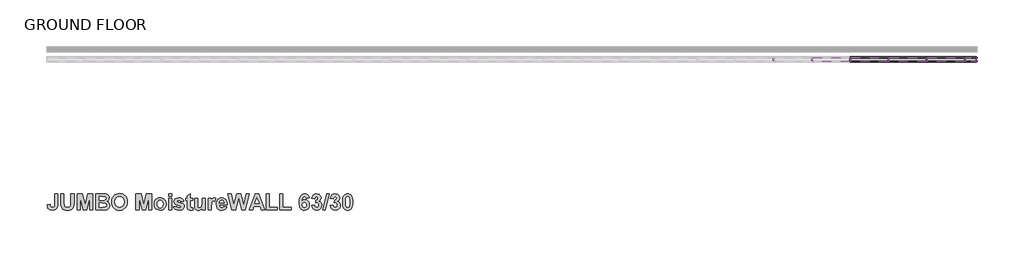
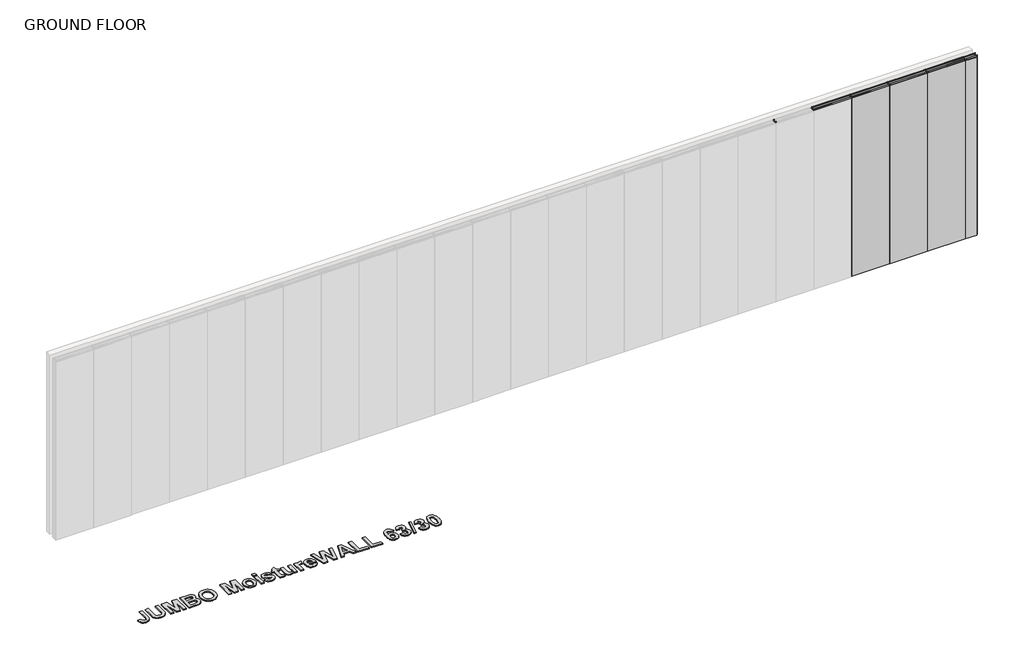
# One storey, part 2 of 2: 16 members, 4 plates, 1 proxy.
"""IFC4 building model written with IfcOpenShell, lengths in millimetres."""

from ifc_helpers import new_model, si_unit, origin, origin_with_axes, place, context, project, spatial, polyline, outline, extrude, transform, mapped, element, save
from components import rectangular_mullion_stud_mullion_63mm_b2ef130e, rectangular_mullion_stud_mullion_63mm_af775e70, rectangular_mullion_stud_mullion_63mm_c22ba0a2, rectangular_mullion_stud_mullion_63mm_ab3eab4e, rectangular_mullion_stud_mullion_63mm_06861ceb, rectangular_mullion_stud_mullion_63mm_08592bac, plate_2_layer_drywall_panels_2_layer_12mm_drywall_panels_e6e5b326, plate_2_layer_drywall_panels_2_layer_12mm_drywall_panels_b7f979b4

model = new_model("IFC4")

# Units and contexts
model_context = context("Model", 3, world=origin())
ifc_project = project(units=[si_unit("LENGTHUNIT", "METRE", prefix="MILLI")], contexts=[model_context])

# Site, building, storey
site = spatial("IfcSite", under=ifc_project)
building = spatial("IfcBuilding", under=site)
storey = spatial("IfcBuildingStorey", under=building, Name="GROUND FLOOR", Elevation=0.0)

# Proxy
placement = place(None, origin())
element("IfcBuildingElementProxy", 1, Name="600mm Arial", ObjectType="600mm Arial", at=placement, inside=storey, context=model_context, shape_type="SweptSolid", body=[
    extrude(outline(polyline([(61762.9500241, -27369.743976), (61811.5338051, -27369.743976), (61811.5338051, -27530.994051), (61810.1104521, -27558.9866592), (61805.8403932, -27579.7043522), (61795.149431, -27599.7261838), (61778.2589759, -27615.3830664), (61755.0741377, -27625.4888724), (61725.5000263, -27628.8574744), (61691.5293357, -27623.4566406), (61677.8651473, -27616.7055985), (61666.4150635, -27607.2541395), (61657.3530497, -27595.1892463), (61650.8530712, -27580.5979016), (61645.5392201, -27543.8358577), (61694.1230011, -27539.7872093), (61696.3529207, -27558.417318), (61701.1448757, -27570.6581534), (61712.5633294, -27580.9062947), (61728.726293, -27584.3223418), (61744.7073837, -27581.8710117), (61755.200658, -27574.5170215), (61761.0126826, -27559.4611102), (61762.9500241, -27533.9040171), (61762.9500241, -27369.743976)])), origin_with_axes(), (0.0, 0.0, 1.0), 15.0),
    extrude(outline(polyline([(61860.117586, -27369.743976), (61908.701367, -27369.743976), (61908.701367, -27507.3347619), (61910.7889513, -27549.8455702), (61916.8777389, -27563.8814119), (61927.9324469, -27574.8649522), (61943.9530752, -27581.9579944), (61964.9396238, -27584.3223418), (61985.9024499, -27582.0924222), (62000.9662687, -27575.4026633), (62010.6687913, -27565.4629151), (62015.547729, -27553.4830277), (62018.0148741, -27510.307988), (62018.0148741, -27369.743976), (62066.598655, -27369.743976), (62066.598655, -27503.539154), (62062.3602262, -27568.3807887), (62056.3346987, -27585.8326775), (62046.7349738, -27600.3587851), (62033.4266236, -27612.085632), (62016.2752205, -27621.1397383), (61994.2844173, -27626.9280404), (61966.457867, -27628.8574744), (61933.8630842, -27626.754075), (61910.2196101, -27620.4438769), (61893.0602995, -27610.7650768), (61879.9180071, -27598.5558714), (61870.682028, -27584.7493477), (61865.2416567, -27570.2785926), (61861.3986037, -27543.1716263), (61860.117586, -27505.6267383), (61860.117586, -27369.743976)])), origin_with_axes(), (0.0, 0.0, 1.0), 15.0),
    extrude(outline(polyline([(62115.182436, -27624.808826), (62115.182436, -27369.743976), (62198.432769, -27369.743976), (62238.6662126, -27543.7093374), (62278.8996562, -27369.743976), (62362.1499892, -27369.743976), (62362.1499892, -27624.808826), (62313.5662082, -27624.808826), (62311.541884, -27424.0211687), (62267.1332717, -27624.808826), (62210.2624136, -27624.808826), (62165.7905412, -27424.0211687), (62163.7662169, -27624.808826), (62115.182436, -27624.808826)])), origin_with_axes(), (0.0, 0.0, 1.0), 15.0),
    extrude(outline(polyline([(62410.7337701, -27369.743976), (62515.4292877, -27369.743976), (62561.7673339, -27372.2743812), (62589.0957107, -27382.8704532), (62600.1425112, -27392.2645828), (62609.1808025, -27404.3156378), (62615.20633, -27418.5096298), (62617.2148391, -27434.3325702), (62614.8188617, -27451.570956), (62607.6309292, -27467.3543588), (62596.3310883, -27480.5282812), (62581.5993851, -27489.9382257), (62600.2294939, -27499.0793147), (62613.9885724, -27512.9649136), (62622.4812451, -27530.6619353), (62625.312136, -27551.2372931), (62623.2799042, -27568.3254361), (62617.1832091, -27584.9233131), (62607.5676691, -27599.6312936), (62594.9789029, -27611.0497474), (62579.2666678, -27618.9493563), (62560.2807208, -27623.1008024), (62497.9062312, -27624.808826), (62410.7337701, -27624.808826), (62410.7337701, -27369.743976)]), holes=[polyline([(62459.3175511, -27414.2791085), (62459.3175511, -27470.9601863), (62496.3879881, -27470.9601863), (62537.5070735, -27470.1378046), (62550.4516779, -27467.1803934), (62560.3123509, -27461.3446463), (62566.5513814, -27452.9152338), (62568.6310582, -27442.1768265), (62566.836052, -27431.9049626), (62561.4510333, -27423.7364982), (62552.5392623, -27418.0193638), (62540.163999, -27415.1014902), (62491.8332586, -27414.2791085), (62459.3175511, -27414.2791085)]), polyline([(62459.3175511, -27515.4953188), (62459.3175511, -27580.2736934), (62510.6847778, -27580.2736934), (62548.7673769, -27578.7554503), (62560.0118653, -27575.3631257), (62568.9473589, -27569.1082802), (62574.783106, -27560.117434), (62576.728355, -27548.5171074), (62575.2259269, -27538.4587465), (62570.7186425, -27530.045149), (62553.3853665, -27518.974626), (62504.1689843, -27515.4953188), (62459.3175511, -27515.4953188)])]), origin_with_axes(), (0.0, 0.0, 1.0), 15.0),
    extrude(outline(polyline([(62657.7013233, -27498.8579042), (62660.5638442, -27463.0842999), (62669.1514071, -27433.5734486), (62679.2493055, -27415.1410278), (62692.4627655, -27398.6854861), (62707.9377752, -27385.2189856), (62724.8203227, -27375.7536884), (62750.0294851, -27368.2099178), (62778.844475, -27365.6953275), (62805.1369671, -27367.8758252), (62828.6618285, -27374.4173182), (62849.4190591, -27385.3198065), (62867.408659, -27400.58329), (62881.9387205, -27419.7293642), (62892.3173358, -27442.2796242), (62898.544505, -27468.23407), (62900.620228, -27497.5927016), (62898.56032, -27526.7516685), (62892.3805959, -27552.5499408), (62882.0810558, -27574.9875187), (62867.6616995, -27594.0644021), (62849.7907124, -27609.2863712), (62829.1362795, -27620.1592063), (62805.6984008, -27626.6829073), (62779.4770763, -27628.8574744), (62752.9789887, -27626.6927917), (62729.3434221, -27620.1987439), (62708.5703765, -27609.3753308), (62690.6598518, -27594.2225524), (62676.2404955, -27575.2741661), (62665.9409554, -27553.0639294), (62659.7612313, -27527.5918421), (62657.7013233, -27498.8579042)]), holes=[polyline([(62706.2851042, -27497.0866206), (62711.4487125, -27534.837104), (62717.9032227, -27549.8099864), (62726.9395371, -27562.1812958), (62750.3853234, -27578.7870803), (62779.4138162, -27584.3223418), (62808.3790489, -27578.8266179), (62831.6350547, -27562.3394461), (62840.5606639, -27549.9740673), (62846.936099, -27534.8608266), (62852.0364471, -27496.3907591), (62847.0705268, -27458.4979404), (62840.8631264, -27443.6792546), (62832.1727658, -27431.6123845), (62809.0511878, -27415.5759412), (62779.4138162, -27410.2304601), (62749.7131845, -27415.6392013), (62726.401826, -27431.865425), (62717.6007602, -27444.0548616), (62711.3142847, -27458.9882064), (62706.2851042, -27497.0866206)])]), origin_with_axes(), (0.0, 0.0, 1.0), 15.0),
    extrude(outline(polyline([(63038.2742741, -27624.808826), (63038.2742741, -27369.743976), (63121.524607, -27369.743976), (63161.7580506, -27543.7093374), (63201.9914942, -27369.743976), (63285.2418272, -27369.743976), (63285.2418272, -27624.808826), (63236.6580463, -27624.808826), (63234.6337221, -27424.0211687), (63190.2251098, -27624.808826), (63133.3542516, -27624.808826), (63088.8823792, -27424.0211687), (63086.858055, -27624.808826), (63038.2742741, -27624.808826)])), origin_with_axes(), (0.0, 0.0, 1.0), 15.0),
    extrude(outline(polyline([(63321.6796629, -27529.0329869), (63324.6766117, -27504.9387844), (63333.6674578, -27481.6195184), (63348.1461204, -27461.3999989), (63367.6065184, -27446.6050357), (63390.8388016, -27437.5430218), (63416.6331202, -27434.5223506), (63436.6252986, -27436.2343279), (63454.7236269, -27441.3702598), (63470.9281049, -27449.9301463), (63485.2387328, -27461.9139875), (63496.9319727, -27476.5152166), (63505.2842869, -27492.9272669), (63510.2956755, -27511.1501385), (63511.9661383, -27531.1838314), (63510.2778836, -27551.3776515), (63505.2131193, -27569.7646041), (63496.7718455, -27586.3446892), (63484.9540622, -27601.1179067), (63470.5781973, -27613.2539676), (63454.4626788, -27621.9225825), (63436.6075067, -27627.1237514), (63417.012681, -27628.8574744), (63392.238432, -27625.9712309), (63368.6503105, -27617.3125004), (63348.4070685, -27603.0710633), (63333.6674578, -27583.4367), (63324.6766117, -27558.6703585), (63321.6796629, -27529.0329869)]), holes=[polyline([(63370.2634439, -27531.6899125), (63373.6241384, -27557.6661039), (63383.7062218, -27576.7627561), (63398.7225955, -27588.505418), (63416.8861608, -27592.4196387), (63435.033911, -27588.505418), (63450.0028396, -27576.7627561), (63460.0374779, -27557.5712137), (63463.3823574, -27531.3103517), (63460.0374779, -27505.6188308), (63450.0028396, -27486.6170688), (63435.033911, -27474.8744069), (63416.8861608, -27470.9601863), (63398.7225955, -27474.8744069), (63383.7062218, -27486.6170688), (63373.6241384, -27505.713721), (63370.2634439, -27531.6899125)])]), origin_with_axes(), (0.0, 0.0, 1.0), 15.0),
    extrude(outline(polyline([(63548.403974, -27414.2791085), (63548.403974, -27369.743976), (63596.987755, -27369.743976), (63596.987755, -27414.2791085), (63548.403974, -27414.2791085)])), origin_with_axes(), (0.0, 0.0, 1.0), 15.0),
    extrude(outline(polyline([(63548.403974, -27624.808826), (63548.403974, -27438.570999), (63596.987755, -27438.570999), (63596.987755, -27624.808826), (63548.403974, -27624.808826)])), origin_with_axes(), (0.0, 0.0, 1.0), 15.0),
    extrude(outline(polyline([(63625.3282939, -27572.1763966), (63673.9120748, -27564.0790998), (63678.5379719, -27576.3199352), (63686.3426906, -27585.2079837), (63697.5950865, -27590.6167249), (63712.5640151, -27592.4196387), (63728.8060539, -27590.6958001), (63740.4617331, -27585.5242843), (63745.206243, -27579.8941326), (63746.7877462, -27572.6192175), (63743.4349593, -27563.5097586), (63727.5566663, -27557.1204853), (63680.6334638, -27544.6898695), (63654.744255, -27533.3346759), (63638.7552568, -27515.3529835), (63633.4255907, -27491.519729), (63637.9961352, -27469.3312379), (63651.7077687, -27450.9699847), (63675.0349422, -27438.6342591), (63708.4521066, -27434.5223506), (63740.3193978, -27437.8435075), (63762.7925595, -27447.8069782), (63777.8010257, -27464.2862424), (63787.2742304, -27487.1547799), (63738.6904494, -27495.2520767), (63735.116252, -27484.8616002), (63729.32795, -27477.2229393), (63720.9776126, -27472.5258745), (63709.7173092, -27470.9601863), (63695.8791555, -27472.288649), (63686.6273612, -27476.2740373), (63682.0093716, -27486.1426178), (63686.6273612, -27494.9357761), (63729.6126206, -27508.5367044), (63760.8394029, -27518.3578398), (63780.9482172, -27530.2349294), (63791.7656997, -27545.907627), (63795.3715272, -27566.7360253), (63790.1446588, -27590.434852), (63774.4640538, -27610.5436663), (63762.7549988, -27618.5559573), (63748.5353074, -27624.2790223), (63712.5640151, -27628.8574744), (63679.2496484, -27625.0460514), (63653.7004628, -27613.6117827), (63635.7741231, -27595.6300903), (63625.3282939, -27572.1763966)])), origin_with_axes(), (0.0, 0.0, 1.0), 15.0),
    extrude(outline(polyline([(63928.9769248, -27438.570999), (63928.9769248, -27475.0088347), (63892.5390891, -27475.0088347), (63892.5390891, -27554.9063807), (63893.6461414, -27583.1520294), (63898.6753218, -27589.7943432), (63908.2276017, -27592.4196387), (63931.001249, -27587.7383889), (63933.0255732, -27622.2784207), (63914.2847593, -27627.2127109), (63893.2349505, -27628.8574744), (63868.6900195, -27624.3027449), (63852.6535762, -27612.5363605), (63845.5368114, -27592.9889798), (63843.9553081, -27557.6265664), (63843.9553081, -27475.0088347), (63819.6634177, -27475.0088347), (63819.6634177, -27438.570999), (63843.9553081, -27438.570999), (63843.9553081, -27402.1331633), (63892.5390891, -27373.7926244), (63892.5390891, -27438.570999), (63928.9769248, -27438.570999)])), origin_with_axes(), (0.0, 0.0, 1.0), 15.0),
    extrude(outline(polyline([(64074.7282677, -27624.808826), (64074.7282677, -27597.4804492), (64063.5391319, -27610.5357588), (64049.3293249, -27620.4755069), (64033.1584538, -27626.7619825), (64016.0861258, -27628.8574744), (63999.2114857, -27626.8015201), (63984.1397594, -27620.6336573), (63971.9305541, -27610.7413542), (63963.6434768, -27597.5120792), (63958.898967, -27579.7597048), (63957.3174637, -27556.2981036), (63957.3174637, -27438.570999), (64005.9012446, -27438.570999), (64005.9012446, -27524.6680379), (64008.5265401, -27573.0936685), (64018.1420801, -27587.2006778), (64035.8865469, -27592.4196387), (64047.5185036, -27590.679985), (64057.8694426, -27585.4610242), (64066.0458146, -27577.6563055), (64071.1540702, -27568.1593782), (64074.7282677, -27517.5829032), (64074.7282677, -27438.570999), (64123.3120486, -27438.570999), (64123.3120486, -27624.808826), (64074.7282677, -27624.808826)])), origin_with_axes(), (0.0, 0.0, 1.0), 15.0),
    extrude(outline(polyline([(64220.4796105, -27624.808826), (64171.8958296, -27624.808826), (64171.8958296, -27438.570999), (64220.4796105, -27438.570999), (64220.4796105, -27464.5076529), (64239.9004709, -27440.3106526), (64259.5111116, -27434.5223506), (64274.6777281, -27437.0843859), (64289.3066335, -27444.7704919), (64275.1363641, -27491.0136479), (64263.4332398, -27485.0830106), (64252.6157573, -27483.1061315), (64235.5038917, -27488.641393), (64229.2569537, -27496.3986666), (64224.4966289, -27508.5999645), (64220.4796105, -27569.0766501), (64220.4796105, -27624.808826)])), origin_with_axes(), (0.0, 0.0, 1.0), 15.0),
    extrude(outline(polyline([(64414.8147343, -27568.1277482), (64463.3985153, -27576.225045), (64451.5688707, -27598.8958946), (64434.4253751, -27615.4146964), (64412.1419938, -27625.4967799), (64384.8926921, -27628.8574744), (64362.8900277, -27626.8766415), (64343.9475721, -27620.9341429), (64328.0653253, -27611.0299786), (64315.2432874, -27597.1641485), (64301.8637696, -27568.4598639), (64297.4039303, -27533.0816354), (64298.8826359, -27511.241075), (64303.3187526, -27491.8992898), (64310.7122805, -27475.0562798), (64321.0632195, -27460.712045), (64333.6757082, -27449.2540537), (64347.8538852, -27441.0697742), (64363.5977504, -27436.1592065), (64380.9073039, -27434.5223506), (64400.1423376, -27436.2026978), (64417.2344343, -27441.2437395), (64432.1835941, -27449.6454757), (64444.989817, -27461.4079064), (64455.194467, -27476.6417368), (64462.3389081, -27495.4576722), (64466.4231403, -27517.8557125), (64467.4471637, -27543.8358577), (64345.9877113, -27543.8358577), (64349.1032728, -27564.3005102), (64357.4377951, -27579.6410921), (64369.7260756, -27589.225002), (64384.7029117, -27592.4196387), (64394.9036079, -27590.9804707), (64403.3646505, -27586.6629667), (64410.0227794, -27579.1508261), (64414.8147343, -27568.1277482)]), holes=[polyline([(64418.8633827, -27515.4953188), (64415.9059716, -27496.2879614), (64408.0459002, -27482.3153799), (64396.6274465, -27473.7989847), (64382.9948882, -27470.9601863), (64368.6032083, -27473.9492275), (64356.931714, -27482.9163511), (64349.2772381, -27497.0708055), (64346.810093, -27515.4953188), (64418.8633827, -27515.4953188)])]), origin_with_axes(), (0.0, 0.0, 1.0), 15.0),
    extrude(outline(polyline([(65054.5011835, -27624.808826), (65003.4502574, -27624.808826), (64983.4600559, -27568.1277482), (64887.1148757, -27568.1277482), (64867.3777147, -27624.808826), (64815.6309272, -27624.808826), (64908.7498406, -27369.743976), (64960.4966282, -27369.743976), (65054.5011835, -27624.808826)]), holes=[polyline([(64967.8980635, -27523.5926156), (64935.0660553, -27430.4737021), (64902.676868, -27523.5926156), (64967.8980635, -27523.5926156)])]), origin_with_axes(), (0.0, 0.0, 1.0), 15.0),
    extrude(outline(polyline([(64543.8021423, -27624.808826), (64479.5931089, -27369.743976), (64529.4420925, -27369.743976), (64570.6876982, -27544.9745401), (64615.0330503, -27369.743976), (64680.3807661, -27369.743976), (64724.5363379, -27547.8845061), (64765.7819436, -27369.743976), (64815.6309272, -27369.743976), (64752.3707957, -27624.808826), (64694.8673362, -27624.808826), (64647.612018, -27434.1427898), (64599.4077979, -27624.808826), (64543.8021423, -27624.808826)])), origin_with_axes(), (0.0, 0.0, 1.0), 15.0),
    extrude(outline(polyline([(65078.793074, -27624.808826), (65078.793074, -27369.743976), (65127.3768549, -27369.743976), (65127.3768549, -27580.2736934), (65256.9336041, -27580.2736934), (65256.9336041, -27624.808826), (65078.793074, -27624.808826)])), origin_with_axes(), (0.0, 0.0, 1.0), 15.0),
    extrude(outline(polyline([(65293.3714398, -27624.808826), (65293.3714398, -27369.743976), (65341.9552208, -27369.743976), (65341.9552208, -27580.2736934), (65471.51197, -27580.2736934), (65471.51197, -27624.808826), (65293.3714398, -27624.808826)])), origin_with_axes(), (0.0, 0.0, 1.0), 15.0),
    extrude(outline(polyline([(65754.9173589, -27437.4323166), (65706.3335779, -27442.6196474), (65703.3603517, -27430.0229737), (65697.7302, -27421.2060929), (65689.7277934, -27416.0108546), (65679.6378024, -27414.2791085), (65666.0368742, -27417.639803), (65654.7133106, -27427.7218864), (65646.4104184, -27448.5581922), (65641.871504, -27484.1815537), (65661.8933356, -27468.1925555), (65686.2801162, -27462.8628894), (65714.1066666, -27468.5563013), (65737.6157129, -27485.6365368), (65753.6284337, -27511.715526), (65758.9660073, -27544.4051989), (65753.5098209, -27578.8424329), (65746.689588, -27593.232136), (65737.1412619, -27605.7358963), (65725.4499989, -27615.8515867), (65712.2009551, -27623.0770799), (65681.0295253, -27628.8574744), (65663.4985614, -27626.9913005), (65647.5965459, -27621.3927789), (65633.3234787, -27612.0619095), (65620.6793599, -27598.9986923), (65610.3284209, -27581.6851851), (65602.9348931, -27559.6034455), (65598.4987763, -27532.7534734), (65597.0200708, -27501.135269), (65598.5640134, -27468.6828215), (65603.1958411, -27441.1014042), (65610.915554, -27418.391017), (65621.7231521, -27400.55166), (65634.9978953, -27387.0732982), (65650.1190436, -27377.445897), (65667.086597, -27371.6694562), (65685.9005554, -27369.743976), (65711.2204231, -27374.077295), (65731.7641507, -27387.077252), (65746.6302816, -27408.3326561), (65754.9173589, -27437.4323166)]), holes=[polyline([(65645.6038517, -27543.3297766), (65648.2291472, -27560.7500353), (65656.1050335, -27573.6630097), (65667.3495219, -27581.6575088), (65680.0806234, -27584.3223418), (65691.9735281, -27582.1398673), (65701.7155883, -27575.5924437), (65708.2155668, -27564.0632847), (65710.3822263, -27546.9356041), (65708.049509, -27529.1832298), (65701.0513569, -27516.9186718), (65690.5580826, -27509.7781844), (65677.7399985, -27507.398022), (65665.3014751, -27509.6753867), (65654.9347211, -27516.5074809), (65647.9365691, -27527.7677843), (65645.6038517, -27543.3297766)])]), origin_with_axes(), (0.0, 0.0, 1.0), 15.0),
    extrude(outline(polyline([(65791.3551946, -27553.5146578), (65839.9389755, -27547.8845061), (65843.6871383, -27563.5097586), (65850.8829783, -27574.9598424), (65860.7357437, -27581.981717), (65872.4546831, -27584.3223418), (65885.0276342, -27581.6416938), (65895.4181108, -27573.5997495), (65902.3925403, -27561.0188909), (65904.7173501, -27544.7214995), (65902.5902282, -27529.3018425), (65896.2088624, -27517.4563829), (65886.7593803, -27509.9126122), (65875.4279093, -27507.398022), (65856.1335692, -27511.0038495), (65860.371998, -27470.9601863), (65874.2022442, -27469.2205327), (65884.3159577, -27462.9894097), (65890.5075431, -27453.1208292), (65892.5714049, -27440.4688029), (65891.0294392, -27429.7224881), (65886.4035421, -27421.3958733), (65879.2156096, -27416.0582997), (65869.987538, -27414.2791085), (65860.601316, -27416.3429703), (65852.685892, -27422.5345557), (65846.9213125, -27432.6957143), (65843.9876239, -27446.6682958), (65795.403843, -27439.3933807), (65800.962827, -27417.655618), (65808.7833608, -27400.7730704), (65819.5059531, -27387.8600961), (65833.7711127, -27378.0310532), (65850.7643655, -27371.8157453), (65869.6712373, -27369.743976), (65900.320771, -27375.4848329), (65913.1072251, -27382.6609041), (65924.2014706, -27392.7074037), (65936.916757, -27412.7292353), (65941.1551858, -27435.218212), (65938.8817749, -27451.1637189), (65932.0615419, -27465.4091097), (65920.6944871, -27477.9543846), (65904.7806103, -27488.7995433), (65924.6442915, -27496.3512215), (65940.0797636, -27509.6437567), (65949.9957892, -27527.5068363), (65953.3011311, -27548.770148), (65947.4416614, -27579.5382944), (65929.8632524, -27605.4195957), (65917.4267059, -27615.6736676), (65903.5549452, -27622.9980047), (65871.5057811, -27628.8574744), (65841.2437157, -27623.646421), (65816.6276171, -27608.0132611), (65799.4129538, -27583.9665036), (65791.3551946, -27553.5146578)])), origin_with_axes(), (0.0, 0.0, 1.0), 15.0),
    extrude(outline(polyline([(65968.6100829, -27624.808826), (66029.3398091, -27369.743976), (66066.6632866, -27369.743976), (66005.9335604, -27624.808826), (65968.6100829, -27624.808826)])), origin_with_axes(), (0.0, 0.0, 1.0), 15.0),
    extrude(outline(polyline([(66082.8578803, -27553.5146578), (66131.4416612, -27547.8845061), (66135.189824, -27563.5097586), (66142.385664, -27574.9598424), (66152.2384294, -27581.981717), (66163.9573688, -27584.3223418), (66176.5303199, -27581.6416938), (66186.9207965, -27573.5997495), (66193.895226, -27561.0188909), (66196.2200358, -27544.7214995), (66194.0929139, -27529.3018425), (66187.7115481, -27517.4563829), (66178.262066, -27509.9126122), (66166.930595, -27507.398022), (66147.6362549, -27511.0038495), (66151.8746837, -27470.9601863), (66165.7049299, -27469.2205327), (66175.8186434, -27462.9894097), (66182.0102288, -27453.1208292), (66184.0740906, -27440.4688029), (66182.5321249, -27429.7224881), (66177.9062278, -27421.3958733), (66170.7182953, -27416.0582997), (66161.4902237, -27414.2791085), (66152.1040017, -27416.3429703), (66144.1885777, -27422.5345557), (66138.4239982, -27432.6957143), (66135.4903096, -27446.6682958), (66086.9065287, -27439.3933807), (66092.4655127, -27417.655618), (66100.2860465, -27400.7730704), (66111.0086388, -27387.8600961), (66125.2737984, -27378.0310532), (66142.2670512, -27371.8157453), (66161.173923, -27369.743976), (66191.8234567, -27375.4848329), (66204.6099108, -27382.6609041), (66215.7041563, -27392.7074037), (66228.4194427, -27412.7292353), (66232.6578715, -27435.218212), (66230.3844606, -27451.1637189), (66223.5642276, -27465.4091097), (66212.1971728, -27477.9543846), (66196.283296, -27488.7995433), (66216.1469772, -27496.3512215), (66231.5824493, -27509.6437567), (66241.4984749, -27527.5068363), (66244.8038168, -27548.770148), (66238.9443471, -27579.5382944), (66221.3659381, -27605.4195957), (66208.9293916, -27615.6736676), (66195.0576309, -27622.9980047), (66163.0084668, -27628.8574744), (66132.7464014, -27623.646421), (66108.1303028, -27608.0132611), (66090.9156395, -27583.9665036), (66082.8578803, -27553.5146578)])), origin_with_axes(), (0.0, 0.0, 1.0), 15.0),
    extrude(outline(polyline([(66358.1659723, -27369.743976), (66375.2976067, -27371.3887394), (66390.4444544, -27376.3230296), (66403.6065155, -27384.5468467), (66414.78379, -27396.0601906), (66425.4391684, -27414.1881721), (66433.0501529, -27437.4481316), (66437.6167437, -27465.8400694), (66439.1389406, -27499.3639853), (66437.6088361, -27532.8562711), (66433.0185229, -27561.2798389), (66425.3680007, -27584.6346887), (66414.6572697, -27602.9208205), (66403.5353478, -27614.2681065), (66390.4128243, -27622.3733109), (66375.2896992, -27627.2364335), (66358.1659723, -27628.8574744), (66340.8583957, -27627.0782832), (66325.3102416, -27621.7407096), (66311.5215098, -27612.8447536), (66299.4922004, -27600.3904152), (66289.736302, -27583.3694861), (66282.7678032, -27560.7737579), (66278.5867038, -27532.6032306), (66277.1930041, -27498.8579042), (66278.7231085, -27465.5316762), (66283.3134218, -27437.2267212), (66290.9639439, -27413.9430391), (66301.6746749, -27395.6806299), (66312.7965968, -27384.3333438), (66325.9191203, -27376.2281394), (66341.0422455, -27371.3650168), (66358.1659723, -27369.743976)]), holes=[polyline([(66358.1659723, -27414.2791085), (66341.9713787, -27419.6245896), (66335.6453655, -27427.0971926), (66330.9641158, -27438.8240395), (66327.0736177, -27462.9735947), (66325.776785, -27499.3639853), (66326.9312824, -27535.2720174), (66330.3947746, -27557.8479768), (66335.621643, -27571.1009744), (66342.0662689, -27579.0401208), (66358.1659723, -27584.3223418), (66374.360566, -27578.9768607), (66380.6865791, -27571.5042577), (66385.3678288, -27559.7774108), (66389.2583269, -27535.7543759), (66390.5551596, -27499.3639853), (66389.4006622, -27463.4954908), (66385.93717, -27440.9116238), (66380.7103017, -27427.6190887), (66374.2656758, -27419.6245896), (66358.1659723, -27414.2791085)])]), origin_with_axes(), (0.0, 0.0, 1.0), 15.0),
])

# Members
rectangular_mullion_stud_mullion_63mm_shape = rectangular_mullion_stud_mullion_63mm_b2ef130e(model_context)
element("IfcMember", 2, ObjectType="Rectangular Mullion : Stud Mullion - 63mm", at=placement, inside=storey, context=model_context, shape_type="MappedRepresentation", body=[
    mapped(rectangular_mullion_stud_mullion_63mm_shape, transform((76216.5186508, -25259.4010443, 3000.0), x_axis=(0.0, 0.0, 1.0), y_axis=(0.0, -1.0, 0.0), z_axis=(1.0, 0.0, 0.0))),
])
rectangular_mullion_stud_mullion_63mm_2_shape = rectangular_mullion_stud_mullion_63mm_af775e70(model_context)
element("IfcMember", 3, ObjectType="Rectangular Mullion : Stud Mullion - 63mm", at=placement, inside=storey, context=model_context, shape_type="MappedRepresentation", body=[
    mapped(rectangular_mullion_stud_mullion_63mm_2_shape, transform((74254.5186511, -25259.4010443, 0.0), x_axis=(0.0, 0.0, -1.0), y_axis=(0.0, -1.0, 0.0), z_axis=(-1.0, 0.0, 0.0))),
])
element("IfcMember", 4, ObjectType="Rectangular Mullion : Stud Mullion - 63mm", at=placement, inside=storey, context=model_context, shape_type="MappedRepresentation", body=[
    mapped(rectangular_mullion_stud_mullion_63mm_2_shape, transform((74854.5186511, -25259.4010443, 0.0), x_axis=(0.0, 0.0, -1.0), y_axis=(0.0, -1.0, 0.0), z_axis=(-1.0, 0.0, 0.0))),
])
element("IfcMember", 5, ObjectType="Rectangular Mullion : Stud Mullion - 63mm", at=placement, inside=storey, context=model_context, shape_type="MappedRepresentation", body=[
    mapped(rectangular_mullion_stud_mullion_63mm_2_shape, transform((75454.5186511, -25259.4010443, 0.0), x_axis=(0.0, 0.0, -1.0), y_axis=(0.0, -1.0, 0.0), z_axis=(-1.0, 0.0, 0.0))),
])
rectangular_mullion_stud_mullion_63mm_3_shape = rectangular_mullion_stud_mullion_63mm_c22ba0a2(model_context)
element("IfcMember", 6, ObjectType="Rectangular Mullion : Stud Mullion - 63mm", at=placement, inside=storey, context=model_context, shape_type="MappedRepresentation", body=[
    mapped(rectangular_mullion_stud_mullion_63mm_3_shape, transform((76235.5186508, -25259.4010443, 0.0), x_axis=(1.0, 0.0, 0.0), y_axis=(0.0, -1.0, 0.0), z_axis=(0.0, 0.0, -1.0))),
])
rectangular_mullion_stud_mullion_63mm_4_shape = rectangular_mullion_stud_mullion_63mm_ab3eab4e(model_context)
element("IfcMember", 7, ObjectType="Rectangular Mullion : Stud Mullion - 63mm", at=placement, inside=storey, context=model_context, shape_type="MappedRepresentation", body=[
    mapped(rectangular_mullion_stud_mullion_63mm_4_shape, transform((74235.5186511, -25259.4010443, 3000.0), x_axis=(0.0, 0.0, 1.0), y_axis=(0.0, -1.0, 0.0), z_axis=(1.0, 0.0, 0.0))),
])
element("IfcMember", 8, ObjectType="Rectangular Mullion : Stud Mullion - 63mm", at=placement, inside=storey, context=model_context, shape_type="MappedRepresentation", body=[
    mapped(rectangular_mullion_stud_mullion_63mm_4_shape, transform((74835.5186511, -25259.4010443, 3000.0), x_axis=(0.0, 0.0, 1.0), y_axis=(0.0, -1.0, 0.0), z_axis=(1.0, 0.0, 0.0))),
])
element("IfcMember", 9, ObjectType="Rectangular Mullion : Stud Mullion - 63mm", at=placement, inside=storey, context=model_context, shape_type="MappedRepresentation", body=[
    mapped(rectangular_mullion_stud_mullion_63mm_4_shape, transform((75435.5186511, -25259.4010443, 3000.0), x_axis=(0.0, 0.0, 1.0), y_axis=(0.0, -1.0, 0.0), z_axis=(1.0, 0.0, 0.0))),
])
element("IfcMember", 10, ObjectType="Rectangular Mullion : Stud Mullion - 63mm", at=placement, inside=storey, context=model_context, shape_type="MappedRepresentation", body=[
    mapped(rectangular_mullion_stud_mullion_63mm_4_shape, transform((76035.5186511, -25259.4010443, 3000.0), x_axis=(0.0, 0.0, 1.0), y_axis=(0.0, -1.0, 0.0), z_axis=(1.0, 0.0, 0.0))),
])
rectangular_mullion_stud_mullion_63mm_5_shape = rectangular_mullion_stud_mullion_63mm_06861ceb(model_context)
element("IfcMember", 11, ObjectType="Rectangular Mullion : Stud Mullion - 63mm", at=placement, inside=storey, context=model_context, shape_type="MappedRepresentation", body=[
    mapped(rectangular_mullion_stud_mullion_63mm_5_shape, transform((76054.5186511, -25259.4010443, 0.0), x_axis=(0.0, 0.0, -1.0), y_axis=(0.0, -1.0, 0.0), z_axis=(-1.0, 0.0, 0.0))),
])
rectangular_mullion_stud_mullion_63mm_6_shape = rectangular_mullion_stud_mullion_63mm_08592bac(model_context)
element("IfcMember", 12, ObjectType="Rectangular Mullion : Stud Mullion - 63mm", at=placement, inside=storey, context=model_context, shape_type="MappedRepresentation", body=[
    mapped(rectangular_mullion_stud_mullion_63mm_6_shape, transform((73045.0186511, -25259.4010443, 0.0), x_axis=(1.0, 0.0, 0.0), y_axis=(0.0, -1.0, 0.0), z_axis=(0.0, 0.0, -1.0))),
])
element("IfcMember", 13, ObjectType="Rectangular Mullion : Stud Mullion - 63mm", at=placement, inside=storey, context=model_context, shape_type="MappedRepresentation", body=[
    mapped(rectangular_mullion_stud_mullion_63mm_6_shape, transform((73645.0186511, -25259.4010443, 0.0), x_axis=(1.0, 0.0, 0.0), y_axis=(0.0, -1.0, 0.0), z_axis=(0.0, 0.0, -1.0))),
])
element("IfcMember", 14, ObjectType="Rectangular Mullion : Stud Mullion - 63mm", at=placement, inside=storey, context=model_context, shape_type="MappedRepresentation", body=[
    mapped(rectangular_mullion_stud_mullion_63mm_6_shape, transform((74245.0186511, -25259.4010443, 0.0), x_axis=(1.0, 0.0, 0.0), y_axis=(0.0, -1.0, 0.0), z_axis=(0.0, 0.0, -1.0))),
])
element("IfcMember", 15, ObjectType="Rectangular Mullion : Stud Mullion - 63mm", at=placement, inside=storey, context=model_context, shape_type="MappedRepresentation", body=[
    mapped(rectangular_mullion_stud_mullion_63mm_6_shape, transform((74845.0186511, -25259.4010443, 0.0), x_axis=(1.0, 0.0, 0.0), y_axis=(0.0, -1.0, 0.0), z_axis=(0.0, 0.0, -1.0))),
])
element("IfcMember", 16, ObjectType="Rectangular Mullion : Stud Mullion - 63mm", at=placement, inside=storey, context=model_context, shape_type="MappedRepresentation", body=[
    mapped(rectangular_mullion_stud_mullion_63mm_6_shape, transform((75445.0186511, -25259.4010443, 0.0), x_axis=(1.0, 0.0, 0.0), y_axis=(0.0, -1.0, 0.0), z_axis=(0.0, 0.0, -1.0))),
])
element("IfcMember", 17, ObjectType="Rectangular Mullion : Stud Mullion - 63mm", at=placement, inside=storey, context=model_context, shape_type="MappedRepresentation", body=[
    mapped(rectangular_mullion_stud_mullion_63mm_6_shape, transform((76045.0186511, -25259.4010443, 0.0), x_axis=(1.0, 0.0, 0.0), y_axis=(0.0, -1.0, 0.0), z_axis=(0.0, 0.0, -1.0))),
])

# Plates
plate_2_layer_drywall_panels_2_layer_12mm_drywall_panels_shape = plate_2_layer_drywall_panels_2_layer_12mm_drywall_panels_e6e5b326(model_context)
element("IfcPlate", 18, ObjectType="2 Layer - Drywall Panels : 2 Layer - 12mm Drywall Panels 89mm", at=placement, inside=storey, context=model_context, shape_type="MappedRepresentation", body=[
    mapped(plate_2_layer_drywall_panels_2_layer_12mm_drywall_panels_shape, transform((74536.3186511, -25259.4010443, 1.6), x_axis=(1.0, 0.0, 0.0), y_axis=(0.0, 1.0, 0.0), z_axis=(0.0, 0.0, 1.0))),
])
element("IfcPlate", 19, ObjectType="2 Layer - Drywall Panels : 2 Layer - 12mm Drywall Panels 89mm", at=placement, inside=storey, context=model_context, shape_type="MappedRepresentation", body=[
    mapped(plate_2_layer_drywall_panels_2_layer_12mm_drywall_panels_shape, transform((75136.3186511, -25259.4010443, 1.6), x_axis=(1.0, 0.0, 0.0), y_axis=(0.0, 1.0, 0.0), z_axis=(0.0, 0.0, 1.0))),
])
element("IfcPlate", 20, ObjectType="2 Layer - Drywall Panels : 2 Layer - 12mm Drywall Panels 89mm", at=placement, inside=storey, context=model_context, shape_type="MappedRepresentation", body=[
    mapped(plate_2_layer_drywall_panels_2_layer_12mm_drywall_panels_shape, transform((75736.3186511, -25259.4010443, 1.6), x_axis=(1.0, 0.0, 0.0), y_axis=(0.0, 1.0, 0.0), z_axis=(0.0, 0.0, 1.0))),
])
plate_2_layer_drywall_panels_2_layer_12mm_drywall_panels_2_shape = plate_2_layer_drywall_panels_2_layer_12mm_drywall_panels_b7f979b4(model_context)
element("IfcPlate", 21, ObjectType="2 Layer - Drywall Panels : 2 Layer - 12mm Drywall Panels 89mm", at=placement, inside=storey, context=model_context, shape_type="MappedRepresentation", body=[
    mapped(plate_2_layer_drywall_panels_2_layer_12mm_drywall_panels_2_shape, transform((76126.818651, -25259.4010443, 1.6), x_axis=(1.0, 0.0, 0.0), y_axis=(0.0, 1.0, 0.0), z_axis=(0.0, 0.0, 1.0))),
])

save(model, "model.ifc")
